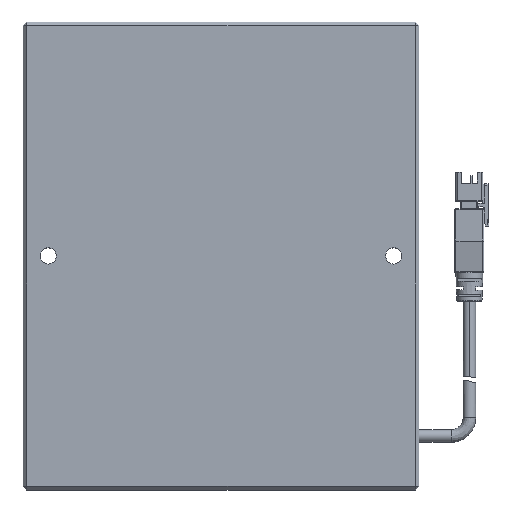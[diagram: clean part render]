
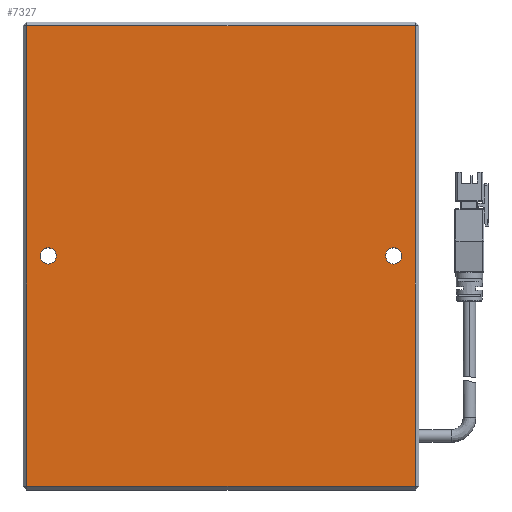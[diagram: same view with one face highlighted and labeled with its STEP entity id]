
A CAD part, top view. The second image highlights one B-rep face of the part: STEP entity #7327.
In plain terms, the highlighted planar face has unit normal (0, 0, 1).
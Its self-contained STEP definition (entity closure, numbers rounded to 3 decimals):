
#291 = EDGE_LOOP ( 'NONE', ( #3234, #7965, #6769, #5952 ) ) ;
#483 = CIRCLE ( 'NONE', #7386, 2.25 ) ;
#542 = CARTESIAN_POINT ( 'NONE',  ( 45.75, 0., 10.5 ) ) ;
#636 = DIRECTION ( 'NONE',  ( 0., 0., 1. ) ) ;
#1235 = DIRECTION ( 'NONE',  ( 0., 1., 0. ) ) ;
#1282 = LINE ( 'NONE', #3887, #3682 ) ;
#1307 = CARTESIAN_POINT ( 'NONE',  ( 48., 0., 10.5 ) ) ;
#1359 = DIRECTION ( 'NONE',  ( -1., 0., 0. ) ) ;
#1362 = EDGE_CURVE ( 'NONE', #4553, #8256, #5390, .T. ) ;
#1553 = ORIENTED_EDGE ( 'NONE', *, *, #2674, .T. ) ;
#1557 = CIRCLE ( 'NONE', #8019, 2.25 ) ;
#1581 = AXIS2_PLACEMENT_3D ( 'NONE', #4479, #636, #5127 ) ;
#1659 = AXIS2_PLACEMENT_3D ( 'NONE', #5950, #2146, #6007 ) ;
#1843 = CIRCLE ( 'NONE', #1659, 2.25 ) ;
#1918 = EDGE_LOOP ( 'NONE', ( #4837, #5278 ) ) ;
#1934 = CARTESIAN_POINT ( 'NONE',  ( 54., -64., 10.5 ) ) ;
#2075 = CIRCLE ( 'NONE', #7729, 2.25 ) ;
#2094 = VECTOR ( 'NONE', #8038, 1000. ) ;
#2146 = DIRECTION ( 'NONE',  ( 0., 0., -1. ) ) ;
#2157 = CARTESIAN_POINT ( 'NONE',  ( -54., -65., 10.5 ) ) ;
#2463 = VECTOR ( 'NONE', #1235, 1000. ) ;
#2657 = EDGE_CURVE ( 'NONE', #5170, #6776, #1557, .T. ) ;
#2674 = EDGE_CURVE ( 'NONE', #8097, #8264, #1843, .T. ) ;
#2717 = DIRECTION ( 'NONE',  ( 0., 0., -1. ) ) ;
#2982 = VECTOR ( 'NONE', #6931, 1000. ) ;
#3037 = EDGE_CURVE ( 'NONE', #8264, #8097, #483, .T. ) ;
#3190 = FACE_BOUND ( 'NONE', #4643, .T. ) ;
#3234 = ORIENTED_EDGE ( 'NONE', *, *, #7646, .T. ) ;
#3245 = DIRECTION ( 'NONE',  ( 0., 0., -1. ) ) ;
#3401 = LINE ( 'NONE', #4966, #2982 ) ;
#3682 = VECTOR ( 'NONE', #3859, 1000. ) ;
#3859 = DIRECTION ( 'NONE',  ( 1., 0., 0. ) ) ;
#3887 = CARTESIAN_POINT ( 'NONE',  ( 55., -64., 10.5 ) ) ;
#4225 = CARTESIAN_POINT ( 'NONE',  ( -54., 64., 10.5 ) ) ;
#4436 = CARTESIAN_POINT ( 'NONE',  ( -45.75, 0., 10.5 ) ) ;
#4437 = EDGE_CURVE ( 'NONE', #6063, #5980, #7642, .T. ) ;
#4479 = CARTESIAN_POINT ( 'NONE',  ( 0., 0., 10.5 ) ) ;
#4544 = DIRECTION ( 'NONE',  ( 0., 0., -1. ) ) ;
#4553 = VERTEX_POINT ( 'NONE', #1934 ) ;
#4578 = DIRECTION ( 'NONE',  ( -1., 0., 0. ) ) ;
#4611 = CARTESIAN_POINT ( 'NONE',  ( -48., 0., 10.5 ) ) ;
#4643 = EDGE_LOOP ( 'NONE', ( #1553, #4656 ) ) ;
#4656 = ORIENTED_EDGE ( 'NONE', *, *, #3037, .T. ) ;
#4837 = ORIENTED_EDGE ( 'NONE', *, *, #2657, .T. ) ;
#4875 = EDGE_CURVE ( 'NONE', #5980, #4553, #1282, .T. ) ;
#4966 = CARTESIAN_POINT ( 'NONE',  ( -55., 64., 10.5 ) ) ;
#5127 = DIRECTION ( 'NONE',  ( 1., 0., 0. ) ) ;
#5170 = VERTEX_POINT ( 'NONE', #542 ) ;
#5211 = PLANE ( 'NONE',  #1581 ) ;
#5247 = CARTESIAN_POINT ( 'NONE',  ( 48., 0., 10.5 ) ) ;
#5278 = ORIENTED_EDGE ( 'NONE', *, *, #5852, .T. ) ;
#5367 = CARTESIAN_POINT ( 'NONE',  ( -54., -64., 10.5 ) ) ;
#5390 = LINE ( 'NONE', #6388, #2463 ) ;
#5415 = FACE_BOUND ( 'NONE', #1918, .T. ) ;
#5607 = FACE_OUTER_BOUND ( 'NONE', #291, .T. ) ;
#5852 = EDGE_CURVE ( 'NONE', #6776, #5170, #2075, .T. ) ;
#5950 = CARTESIAN_POINT ( 'NONE',  ( -48., 0., 10.5 ) ) ;
#5952 = ORIENTED_EDGE ( 'NONE', *, *, #1362, .T. ) ;
#5980 = VERTEX_POINT ( 'NONE', #5367 ) ;
#6007 = DIRECTION ( 'NONE',  ( -1., 0., 0. ) ) ;
#6063 = VERTEX_POINT ( 'NONE', #4225 ) ;
#6174 = CARTESIAN_POINT ( 'NONE',  ( -50.25, 0., 10.5 ) ) ;
#6388 = CARTESIAN_POINT ( 'NONE',  ( 54., 65., 10.5 ) ) ;
#6769 = ORIENTED_EDGE ( 'NONE', *, *, #4875, .T. ) ;
#6776 = VERTEX_POINT ( 'NONE', #7129 ) ;
#6931 = DIRECTION ( 'NONE',  ( -1., 0., 0. ) ) ;
#7129 = CARTESIAN_POINT ( 'NONE',  ( 50.25, 0., 10.5 ) ) ;
#7327 = ADVANCED_FACE ( 'NONE', ( #5607, #3190, #5415 ), #5211, .T. ) ;
#7386 = AXIS2_PLACEMENT_3D ( 'NONE', #4611, #4544, #4578 ) ;
#7642 = LINE ( 'NONE', #2157, #2094 ) ;
#7646 = EDGE_CURVE ( 'NONE', #8256, #6063, #3401, .T. ) ;
#7729 = AXIS2_PLACEMENT_3D ( 'NONE', #5247, #2717, #7881 ) ;
#7881 = DIRECTION ( 'NONE',  ( -1., 0., 0. ) ) ;
#7965 = ORIENTED_EDGE ( 'NONE', *, *, #4437, .T. ) ;
#8019 = AXIS2_PLACEMENT_3D ( 'NONE', #1307, #3245, #1359 ) ;
#8038 = DIRECTION ( 'NONE',  ( 0., -1., 0. ) ) ;
#8097 = VERTEX_POINT ( 'NONE', #6174 ) ;
#8256 = VERTEX_POINT ( 'NONE', #8291 ) ;
#8264 = VERTEX_POINT ( 'NONE', #4436 ) ;
#8291 = CARTESIAN_POINT ( 'NONE',  ( 54., 64., 10.5 ) ) ;
